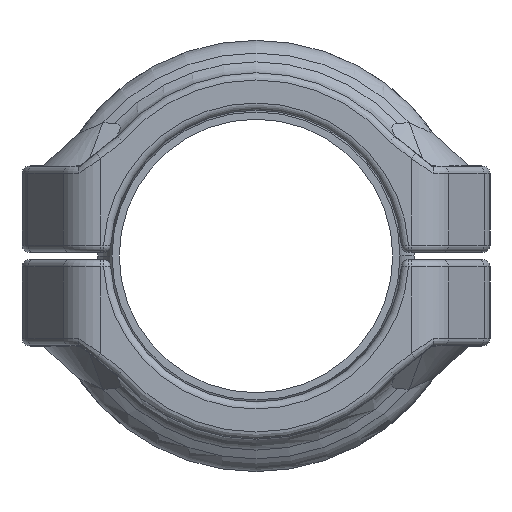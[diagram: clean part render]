
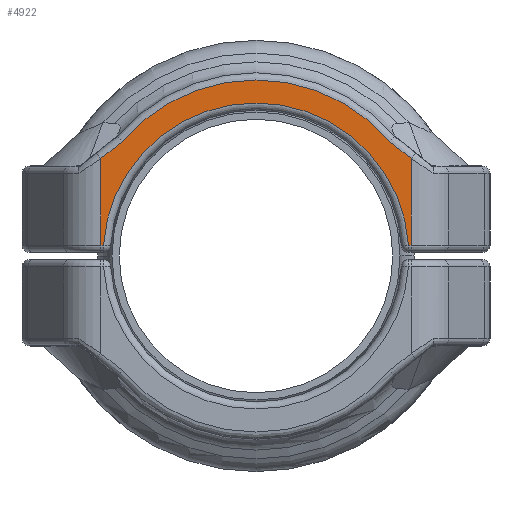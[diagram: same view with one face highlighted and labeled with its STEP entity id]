
A CAD part, left-side view. The second image highlights one B-rep face of the part: STEP entity #4922.
In plain terms, the highlighted planar face has unit normal (-1, 0, 0) as drawn and (1, 0, 0) by its records, which use the part's own axes.
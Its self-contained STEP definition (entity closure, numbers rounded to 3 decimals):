
#2497=CARTESIAN_POINT('',(39.,0.,0.));
#2498=DIRECTION('',(-1.,0.,0.));
#2499=DIRECTION('',(0.,-0.998,0.071));
#2500=AXIS2_PLACEMENT_3D('',#2497,#2498,#2499);
#2505=DIRECTION('',(0.,-1.,0.));
#2506=VECTOR('',#2505,0.357);
#2507=CARTESIAN_POINT('',(39.,-21.197,1.5));
#2508=LINE('',#2507,#2506);
#2512=DIRECTION('',(0.,-0.782,-0.623));
#2513=VECTOR('',#2512,3.808);
#2514=CARTESIAN_POINT('',(39.,-18.576,15.898));
#2515=LINE('',#2514,#2513);
#2519=CARTESIAN_POINT('',(39.,0.,0.));
#2520=DIRECTION('',(-1.,0.,0.));
#2521=DIRECTION('',(0.,-0.76,0.65));
#2522=AXIS2_PLACEMENT_3D('',#2519,#2520,#2521);
#2527=DIRECTION('',(0.,-0.782,0.623));
#2528=VECTOR('',#2527,3.808);
#2529=CARTESIAN_POINT('',(39.,21.554,13.524));
#2530=LINE('',#2529,#2528);
#2534=DIRECTION('',(0.,-1.,0.));
#2535=VECTOR('',#2534,0.357);
#2536=CARTESIAN_POINT('',(39.,21.554,1.5));
#2537=LINE('',#2536,#2535);
#2556=DIRECTION('',(0.,0.,1.));
#2557=VECTOR('',#2556,12.024);
#2558=CARTESIAN_POINT('',(39.,-21.554,1.5));
#2559=LINE('',#2558,#2557);
#2687=DIRECTION('',(0.,0.,-1.));
#2688=VECTOR('',#2687,12.024);
#2689=CARTESIAN_POINT('',(39.,21.554,13.524));
#2690=LINE('',#2689,#2688);
#3193=CARTESIAN_POINT('',(39.,21.554,13.524));
#3194=CARTESIAN_POINT('',(39.,21.554,1.5));
#3195=VERTEX_POINT('',#3193);
#3196=VERTEX_POINT('',#3194);
#3197=CARTESIAN_POINT('',(39.,18.576,15.898));
#3198=VERTEX_POINT('',#3197);
#3199=CARTESIAN_POINT('',(39.,-18.576,15.898));
#3200=CARTESIAN_POINT('',(39.,-21.554,13.524));
#3201=VERTEX_POINT('',#3199);
#3202=VERTEX_POINT('',#3200);
#3203=CARTESIAN_POINT('',(39.,-21.554,1.5));
#3204=VERTEX_POINT('',#3203);
#3327=CARTESIAN_POINT('',(39.,21.197,1.5));
#3329=VERTEX_POINT('',#3327);
#3349=CARTESIAN_POINT('',(39.,-21.197,1.5));
#3350=VERTEX_POINT('',#3349);
#4905=CARTESIAN_POINT('',(39.,-25.45,0.));
#4906=DIRECTION('',(1.,0.,0.));
#4907=DIRECTION('',(0.,0.,-1.));
#4908=AXIS2_PLACEMENT_3D('',#4905,#4906,#4907);
#4909=PLANE('',#4908);
#4910=ORIENTED_EDGE('',*,*,#4895,.F.);
#4911=ORIENTED_EDGE('',*,*,#4873,.T.);
#4913=ORIENTED_EDGE('',*,*,#4912,.T.);
#4914=ORIENTED_EDGE('',*,*,#3599,.F.);
#4915=ORIENTED_EDGE('',*,*,#3613,.T.);
#4916=ORIENTED_EDGE('',*,*,#3628,.F.);
#4918=ORIENTED_EDGE('',*,*,#4917,.T.);
#4919=ORIENTED_EDGE('',*,*,#4855,.T.);
#4920=EDGE_LOOP('',(#4910,#4911,#4913,#4914,#4915,#4916,#4918,#4919));
#4921=FACE_OUTER_BOUND('',#4920,.F.);
#2501=CIRCLE('',#2500,21.25);
#2523=CIRCLE('',#2522,24.45);
#3599=EDGE_CURVE('',#3201,#3202,#2515,.T.);
#3613=EDGE_CURVE('',#3201,#3198,#2523,.T.);
#3628=EDGE_CURVE('',#3195,#3198,#2530,.T.);
#4855=EDGE_CURVE('',#3196,#3329,#2537,.T.);
#4873=EDGE_CURVE('',#3350,#3204,#2508,.T.);
#4895=EDGE_CURVE('',#3350,#3329,#2501,.T.);
#4912=EDGE_CURVE('',#3204,#3202,#2559,.T.);
#4917=EDGE_CURVE('',#3195,#3196,#2690,.T.);
#4922=ADVANCED_FACE('',(#4921),#4909,.T.);
